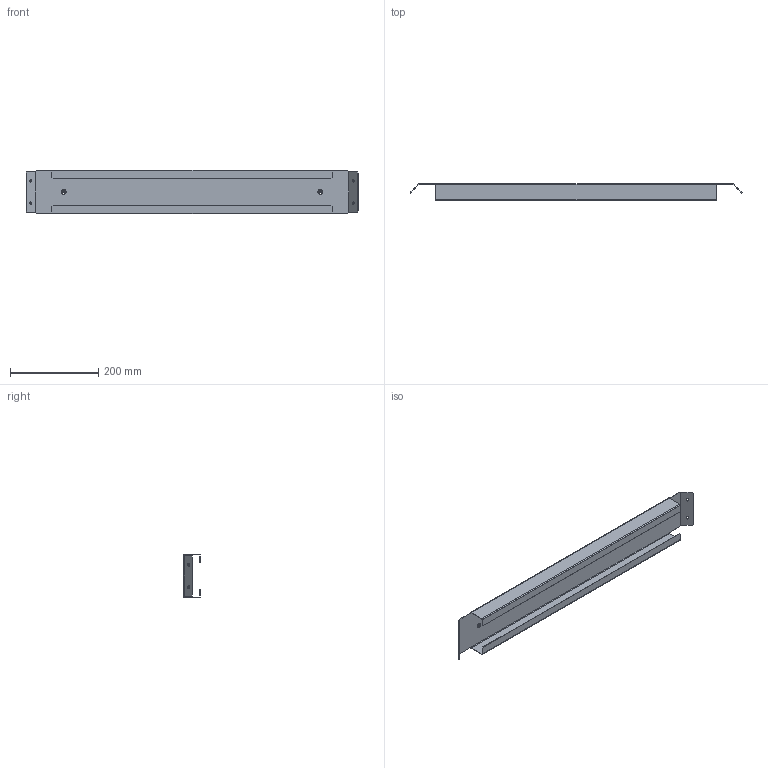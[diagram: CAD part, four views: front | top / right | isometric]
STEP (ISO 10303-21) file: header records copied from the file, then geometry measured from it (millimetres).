
FILE_DESCRIPTION (( 'STEP AP203' ), '1' );
FILE_NAME ('MA1.600.080620.20.01 Ïàíåëü öîêîëÿ Ø_Ã = 800 ìì, Â = 100 ìì.STEP', '2024-02-13T11:54:21', ( '' ), ( '' ), 'SwSTEP 2.0', 'SolidWorks 2021', '' );
FILE_SCHEMA (( 'CONFIG_CONTROL_DESIGN' ));
Length unit declared in the file: millimetre
Products named in the file (1): MA1.600.080620.20.01 Ïàíåëü öîêîëÿ Ø_Ã = 800 ìì, Â = 100 ìì
Bounding box: 750.67 x 38 x 99 mm (x, y, z)
Volume: 143604.6 mm3; surface area: 289340.8 mm2
Topology: 1 solids, 1 shells, 110 faces, 276 edges, 168 vertices
Faces by surface type: plane 74, cylinder 36
Entity records: 3353 total; most frequent: DIRECTION 570, CARTESIAN_POINT 555, ORIENTED_EDGE 552, EDGE_CURVE 276, VECTOR 204, LINE 204, AXIS2_PLACEMENT_3D 183, VERTEX_POINT 168
